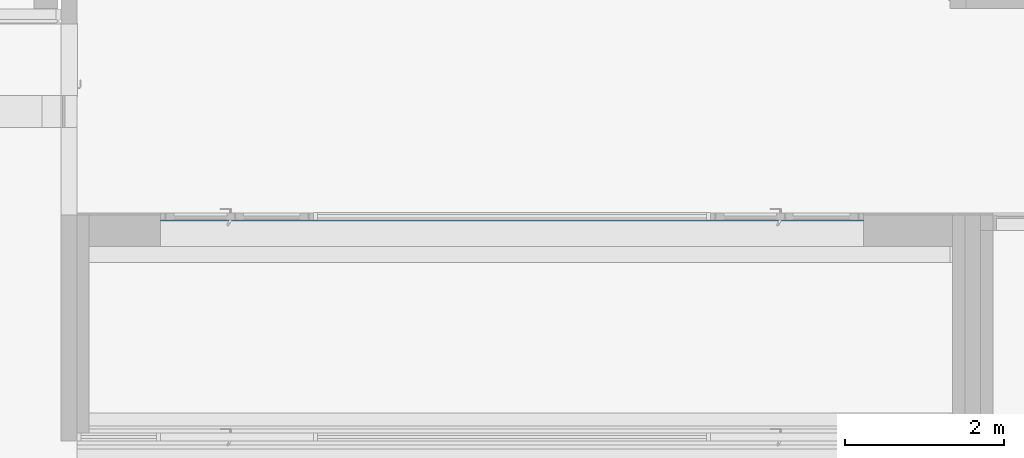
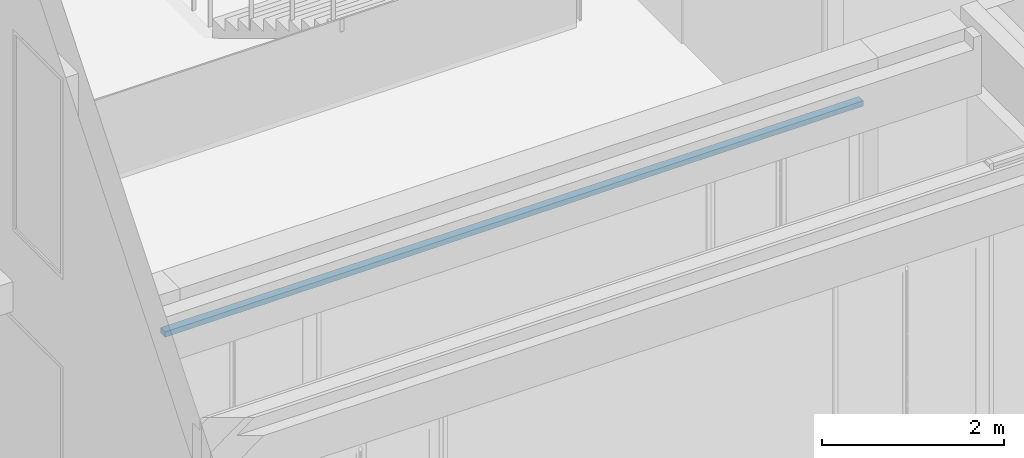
# One storey, part 146 of 240: 1 wall, 3 openings.
"""IFC2X3 building model written with IfcOpenShell, lengths in centimetres."""

from ifc_helpers import new_model, entity, si_unit, converted_unit, derived_unit, direction, frame, frame_2d, origin, place, context, subcontext, project, spatial, rectangle, extrude, clip, halfspace, material, layer, layer_set, layer_usage, type_object, element, save


model = new_model("IFC2X3")

# Units and contexts
model_context = context("Model", 3, precision=0.001, world=origin(), true_north=direction((6.12303176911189e-17, 1.0)))
body_context = subcontext(model_context, "Body", "Model", "MODEL_VIEW")
ifc_project = project(units=[si_unit("LENGTHUNIT", "METRE", prefix="CENTI"), si_unit("AREAUNIT", "SQUARE_METRE"), si_unit("VOLUMEUNIT", "CUBIC_METRE"), converted_unit("PLANEANGLEUNIT", "DEGREE", entity("IfcRatioMeasure", 0.0174532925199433), si_unit("PLANEANGLEUNIT", "RADIAN"), dimensions=[0, 0, 0, 0, 0, 0, 0]), si_unit("MASSUNIT", "GRAM", prefix="KILO"), derived_unit("MASSDENSITYUNIT", [(si_unit("MASSUNIT", "GRAM", prefix="KILO"), 1), (si_unit("LENGTHUNIT", "METRE"), -3)]), si_unit("TIMEUNIT", "SECOND"), si_unit("FREQUENCYUNIT", "HERTZ"), si_unit("THERMODYNAMICTEMPERATUREUNIT", "DEGREE_CELSIUS"), derived_unit("THERMALTRANSMITTANCEUNIT", [(si_unit("MASSUNIT", "GRAM", prefix="KILO"), 1), (si_unit("THERMODYNAMICTEMPERATUREUNIT", "KELVIN"), -1), (si_unit("TIMEUNIT", "SECOND"), -3)]), derived_unit("VOLUMETRICFLOWRATEUNIT", [(si_unit("LENGTHUNIT", "METRE"), 3), (si_unit("TIMEUNIT", "SECOND"), -1)]), si_unit("ELECTRICCURRENTUNIT", "AMPERE"), si_unit("ELECTRICVOLTAGEUNIT", "VOLT"), si_unit("POWERUNIT", "WATT"), si_unit("FORCEUNIT", "NEWTON", prefix="KILO"), si_unit("ILLUMINANCEUNIT", "LUX"), si_unit("LUMINOUSFLUXUNIT", "LUMEN"), si_unit("LUMINOUSINTENSITYUNIT", "CANDELA"), derived_unit("USERDEFINED", [(si_unit("MASSUNIT", "GRAM", prefix="KILO"), -1), (si_unit("LENGTHUNIT", "METRE"), -2), (si_unit("TIMEUNIT", "SECOND"), 3), (si_unit("LUMINOUSFLUXUNIT", "LUMEN"), 1)]), derived_unit("LINEARVELOCITYUNIT", [(si_unit("LENGTHUNIT", "METRE"), 1), (si_unit("TIMEUNIT", "SECOND"), -1)]), si_unit("PRESSUREUNIT", "PASCAL"), derived_unit("USERDEFINED", [(si_unit("LENGTHUNIT", "METRE"), -2), (si_unit("MASSUNIT", "GRAM", prefix="KILO"), 1), (si_unit("TIMEUNIT", "SECOND"), -2)])], contexts=[model_context])

# Site, building, storey
site_placement = place(None, frame((-2781.94577612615, 7442.24238424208, 0.0)))
site = spatial("IfcSite", under=ifc_project, at=site_placement, Name="Default", CompositionType="ELEMENT")
building_placement = place(site_placement, origin())
building = spatial("IfcBuilding", under=site, at=building_placement, CompositionType="ELEMENT")
storey_placement = place(building_placement, origin())
storey = spatial("IfcBuildingStorey", under=building, at=storey_placement, Name="N00 - COO", CompositionType="ELEMENT", Elevation=0.0)

# Wall, openings
ifc_material_1 = material(Name="01 - Enduit/Plâtre")
ifc_layer_1 = layer(ifc_material_1, 1.3)
ifc_material_2 = material(Name="00 - Isolant")
ifc_layer_2 = layer(ifc_material_2, 7.4)
ifc_layer_3 = layer(ifc_material_1, 1.3)
ifc_layer_set = layer_set([ifc_layer_1, ifc_layer_2, ifc_layer_3], Name="Mur de base:06 - cloisons - Ba13 10cm")
ifc_layer_usage = layer_usage(ifc_layer_set, "AXIS2", "NEGATIVE", 5.0)
wall_type = type_object("IfcWallType", Name="Mur de base:06 - cloisons - Ba13 10cm", PredefinedType="STANDARD", material=ifc_layer_set)
wall_placement = place(building_placement, frame((-4662.75692494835, -2192.71658173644, 306.0)))
wall = element("IfcWallStandardCase", 1, at=wall_placement, inside=storey, type_object=wall_type, material=ifc_layer_usage, Name="Mur de base:06 - cloisons - Ba13 10cm", ObjectType="Mur de base:06 - cloisons - Ba13 10cm", context=body_context, shape_type="Clipping", body=[
    clip(extrude(rectangle(XDim=885.49409053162, YDim=10.0000000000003, at=frame_2d((442.74704526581, 0.0), x_axis=(-1.0, 0.0))), origin(), (0.0, 0.0, 1.0), 6.99999999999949), halfspace(frame((0.0, -5.0, 7.0), z_axis=(0.0, 0.0, 1.0), x_axis=(0.0, 1.0, 0.0)), False)),
])
opening_1_placement = place(wall_placement, origin())
element("IfcOpeningElement", 2, at=opening_1_placement, cuts=wall, Name="Mur de base:06 - cloisons - Ba13 10cm", ObjectType="Opening", context=body_context, shape_type="SweptSolid", body=[
    extrude(rectangle(XDim=306.0, YDim=499.999999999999, at=frame_2d((0.0, 0.0), x_axis=(0.0, 1.0))), frame((442.75704526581, -20.2399999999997, -153.0), z_axis=(0.0, 1.0, 0.0), x_axis=(-1.0, 0.0, 0.0)), (0.0, 0.0, 1.0), 40.4799999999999),
])
opening_2_placement = place(wall_placement, frame((4662.75692494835, 2192.71658173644, -306.0)))
element("IfcOpeningElement", 3, at=opening_2_placement, cuts=wall, Name="Mur de base:06 - cloisons - Ba13 10cm", ObjectType="Opening", context=body_context, shape_type="SweptSolid", body=[
    extrude(rectangle(XDim=321.0, YDim=192.75704526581, at=frame_2d((0.0, -2.1316282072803e-13), x_axis=(1.0, 0.0))), frame((-3873.62135704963, -2197.81658173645, 145.5), z_axis=(0.0, 1.0, 0.0), x_axis=(0.0, 0.0, -1.0)), (0.0, 0.0, 1.0), 61.1877456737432),
])
opening_3_placement = place(wall_placement, frame((4662.75692494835, 2192.71658173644, -306.0)))
element("IfcOpeningElement", 4, at=opening_3_placement, cuts=wall, Name="Mur de base:06 - cloisons - Ba13 10cm", ObjectType="Opening", context=body_context, shape_type="SweptSolid", body=[
    extrude(rectangle(XDim=321.0, YDim=192.75704526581, at=frame_2d((0.0, -4.33431068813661e-13), x_axis=(1.0, 0.0))), frame((-4566.37840231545, -2197.81658173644, 145.5), z_axis=(0.0, 1.0, 0.0), x_axis=(0.0, 0.0, -1.0)), (0.0, 0.0, 1.0), 61.1877456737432),
])

save(model, "model.ifc")
